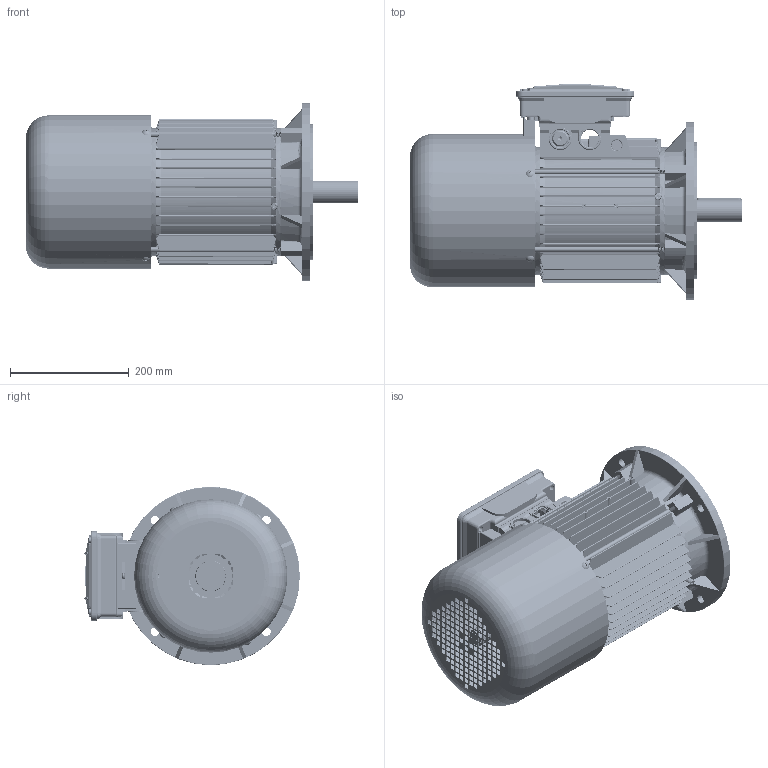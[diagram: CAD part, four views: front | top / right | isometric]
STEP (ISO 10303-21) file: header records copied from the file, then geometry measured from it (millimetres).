
FILE_DESCRIPTION (( 'STEP AP214' ), '1' );
FILE_NAME ('M14IB0010.STEP', '2019-03-16T08:30:53', ( '' ), ( '' ), 'SwSTEP 2.0', 'SolidWorks 2018', '' );
FILE_SCHEMA (( 'AUTOMOTIVE_DESIGN' ));
Length unit declared in the file: millimetre
Products named in the file (18): Scudo Lato Freno P1 BM 132; Scudo a flangia B5 Fi 300 BA 132 - DGAA0195; Scatola BA 132 - Completa; Vite M5x20; Carcassa 132 S B5; Coperchio Scatola Morsettiera BA 132 - DGBR0002; M14IB0010; Guarnizione Coperchio Morsettiera Doppia Scatola BA 132 - DGBS0102; Piastra stringi Pipetta BA 132 - DGBA0210 bis; Guarnizione Basetta BA 132 - DGBU0202; Vite Autofilettante Testa Bombata 4,8x9,5; Pipetta passafilo; Scatola per Morsettiera BA 132 - DGBQ0102; Vite testa rotonda M6; Tirante SM 132 S - DGCQ0003; Chiavetta 132; Albero BM 132 S; Cuffia BM 132
Assembly tree (27 placements, depth 3):
  M14IB0010
    Carcassa 132 S B5
    Scudo a flangia B5 Fi 300 BA 132 - DGAA0195
    Scudo Lato Freno P1 BM 132
    Cuffia BM 132
    Albero BM 132 S
    Chiavetta 132
    Tirante SM 132 S - DGCQ0003  x4
    Vite testa rotonda M6  x4
    Scatola BA 132 - Completa
      Scatola per Morsettiera BA 132 - DGBQ0102
      Pipetta passafilo  x2
      Vite Autofilettante Testa Bombata 4,8x9,5
      Guarnizione Basetta BA 132 - DGBU0202
      Piastra stringi Pipetta BA 132 - DGBA0210 bis
      Guarnizione Coperchio Morsettiera Doppia Scatola BA 132 - DGBS0102
      Coperchio Scatola Morsettiera BA 132 - DGBR0002
      Vite M5x20  x4
Bounding box: 558.6 x 362.89 x 300 mm (x, y, z)
Volume: 4489916.7 mm3; surface area: 1764997.3 mm2
Topology: 26 solids, 26 shells, 4769 faces, 12987 edges, 8303 vertices
Faces by surface type: cylinder 2284, plane 1440, cone 420, bspline 309, torus 296, sphere 20
Entity records: 167066 total; most frequent: CARTESIAN_POINT 69306, ORIENTED_EDGE 20964, DIRECTION 19241, EDGE_CURVE 10482, AXIS2_PLACEMENT_3D 7068, VERTEX_POINT 6728, VECTOR 5105, LINE 5105
